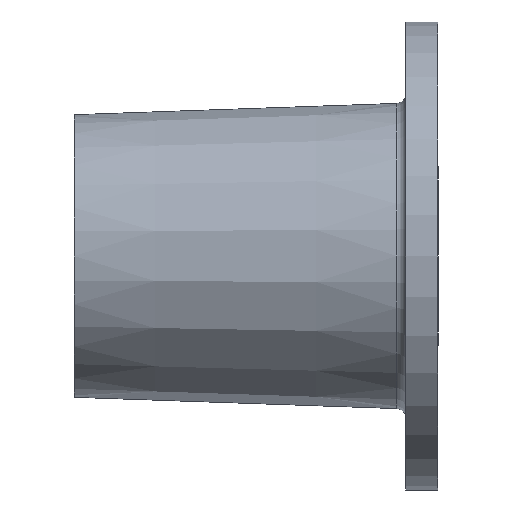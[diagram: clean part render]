
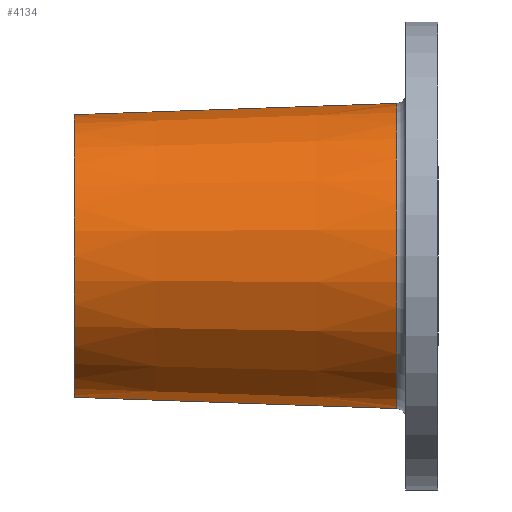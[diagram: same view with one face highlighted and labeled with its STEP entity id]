
A CAD part, left-side view. The second image highlights one B-rep face of the part: STEP entity #4134.
In plain terms, the highlighted conical face has half-angle 2 degrees and reference radius 69.017 mm.
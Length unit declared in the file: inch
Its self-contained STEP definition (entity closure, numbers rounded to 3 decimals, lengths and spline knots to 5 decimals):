
#106 = CIRCLE ( 'NONE', #1018, 2.93393 ) ;
#948 = CIRCLE ( 'NONE', #6190, 2.71721 ) ;
#1018 = AXIS2_PLACEMENT_3D ( 'NONE', #1705, #1697, #1685 ) ;
#1145 = CARTESIAN_POINT ( 'NONE',  ( 0., 0.79372, -2.93393 ) ) ;
#1427 = DIRECTION ( 'NONE',  ( 0., -0.999, -0.035 ) ) ;
#1531 = VECTOR ( 'NONE', #2360, 39.37008 ) ;
#1685 = DIRECTION ( 'NONE',  ( 0., 0., -1. ) ) ;
#1697 = DIRECTION ( 'NONE',  ( 0., 1., 0. ) ) ;
#1705 = CARTESIAN_POINT ( 'NONE',  ( 0., 0.79372, 0. ) ) ;
#1792 = EDGE_CURVE ( 'NONE', #3597, #4666, #948, .T. ) ;
#2021 = EDGE_CURVE ( 'NONE', #3904, #5192, #106, .T. ) ;
#2360 = DIRECTION ( 'NONE',  ( 0., -0.999, 0.035 ) ) ;
#2488 = CARTESIAN_POINT ( 'NONE',  ( 0., 7., -2.71721 ) ) ;
#2856 = DIRECTION ( 'NONE',  ( 0., 0., -1. ) ) ;
#2886 = DIRECTION ( 'NONE',  ( 0., -1., 0. ) ) ;
#2896 = CARTESIAN_POINT ( 'NONE',  ( 0., 7., 0. ) ) ;
#3031 = CARTESIAN_POINT ( 'NONE',  ( 0., 0.79372, 2.93393 ) ) ;
#3180 = VECTOR ( 'NONE', #1427, 39.37008 ) ;
#3434 = AXIS2_PLACEMENT_3D ( 'NONE', #5939, #6076, #5888 ) ;
#3450 = ORIENTED_EDGE ( 'NONE', *, *, #4998, .T. ) ;
#3597 = VERTEX_POINT ( 'NONE', #4154 ) ;
#3904 = VERTEX_POINT ( 'NONE', #1145 ) ;
#4134 = ADVANCED_FACE ( 'NONE', ( #4556 ), #4383, .T. ) ;
#4154 = CARTESIAN_POINT ( 'NONE',  ( 0., 7., 2.71721 ) ) ;
#4202 = LINE ( 'NONE', #2488, #3180 ) ;
#4340 = CARTESIAN_POINT ( 'NONE',  ( 0., 7., 2.71721 ) ) ;
#4375 = ORIENTED_EDGE ( 'NONE', *, *, #4874, .F. ) ;
#4382 = ORIENTED_EDGE ( 'NONE', *, *, #2021, .T. ) ;
#4383 = CONICAL_SURFACE ( 'NONE', #3434, 2.71721, 0.035 ) ;
#4556 = FACE_OUTER_BOUND ( 'NONE', #4944, .T. ) ;
#4666 = VERTEX_POINT ( 'NONE', #6007 ) ;
#4874 = EDGE_CURVE ( 'NONE', #3597, #5192, #5453, .T. ) ;
#4944 = EDGE_LOOP ( 'NONE', ( #4375, #6035, #3450, #4382 ) ) ;
#4998 = EDGE_CURVE ( 'NONE', #4666, #3904, #4202, .T. ) ;
#5192 = VERTEX_POINT ( 'NONE', #3031 ) ;
#5453 = LINE ( 'NONE', #4340, #1531 ) ;
#5888 = DIRECTION ( 'NONE',  ( 0., 0., -1. ) ) ;
#5939 = CARTESIAN_POINT ( 'NONE',  ( 0., 7., 0. ) ) ;
#6007 = CARTESIAN_POINT ( 'NONE',  ( 0., 7., -2.71721 ) ) ;
#6035 = ORIENTED_EDGE ( 'NONE', *, *, #1792, .T. ) ;
#6076 = DIRECTION ( 'NONE',  ( 0., -1., 0. ) ) ;
#6190 = AXIS2_PLACEMENT_3D ( 'NONE', #2896, #2886, #2856 ) ;
